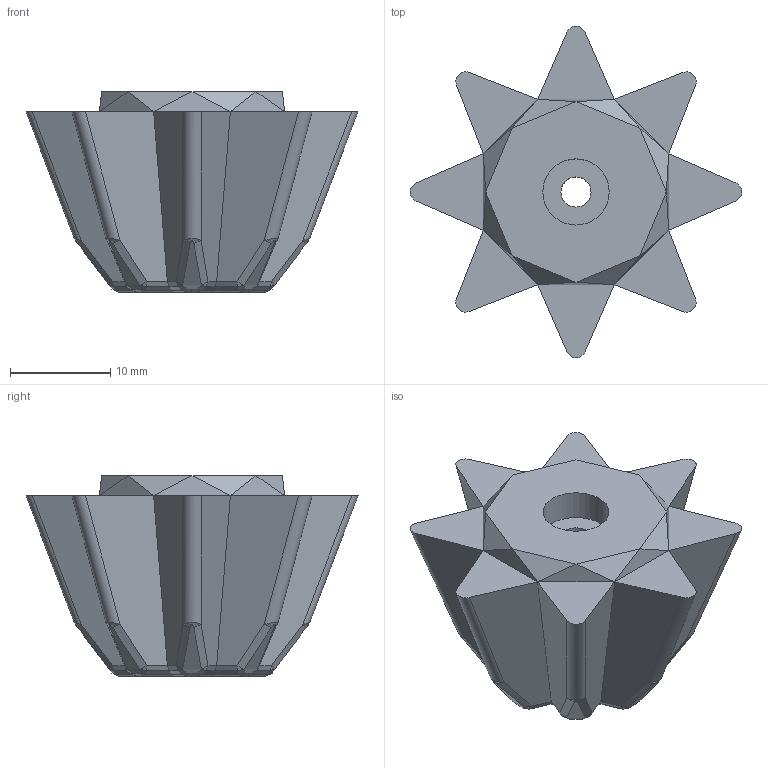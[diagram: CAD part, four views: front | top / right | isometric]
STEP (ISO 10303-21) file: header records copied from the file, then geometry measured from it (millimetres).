
FILE_DESCRIPTION(/* description */ (''),/* implementation_level */ '2;1');
FILE_NAME(/* name */ '/Users/paulokiefe/Desktop/Fixture blank insert v3.stp',/* time_stamp */ '2015-10-20T23:50:27+02:00',/* author */ (''),/* organization */ (''),/* preprocessor_version */ 'ST-DEVELOPER v16.1',/* originating_system */ 'Autodesk Translation Framework v4.1.0.1560',/* authorisation */ '');
FILE_SCHEMA (('AUTOMOTIVE_DESIGN { 1 0 10303 214 3 1 1 }'));
Length unit declared in the file: centimetre
Products named in the file (1): Fixture blank insert v3
Bounding box: 33.08 x 33.08 x 20 mm (x, y, z)
Volume: 6665 mm3; surface area: 2882.5 mm2
Topology: 1 solids, 1 shells, 192 faces, 392 edges, 203 vertices
Faces by surface type: plane 123, bspline 50, cylinder 10, cone 9
Full cylindrical faces by diameter (mm): 3 x1, 6.6 x1
Entity records: 6160 total; most frequent: CARTESIAN_POINT 2600, ORIENTED_EDGE 774, DIRECTION 588, EDGE_CURVE 387, LINE 228, VECTOR 228, VERTEX_POINT 201, EDGE_LOOP 198
